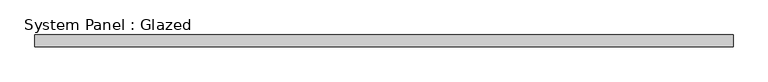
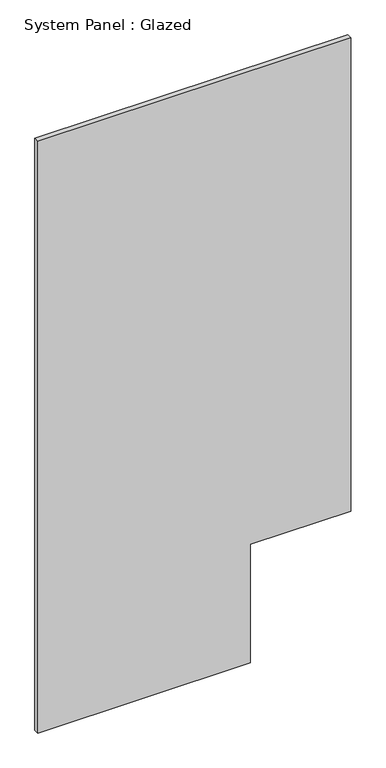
"""IFC4 building model written with IfcOpenShell, lengths in millimetres: plate geometry, System Panel : Glazed."""

from ifc_helpers import new_model, si_unit, frame, origin, place, context, project, spatial, polyline, outline, extrude, source, transform, mapped, element, save


def system_panel_glazed_fbe2ae63(model_context):
    return source(origin(), model_context, "Body", "SweptSolid", [
        extrude(outline(polyline([(0.0, -762.0), (0.0, 272.2441888), (609.6, 272.2441888), (609.6, 762.0), (3048.0, 762.0), (3048.0, -762.0), (0.0, -762.0)])), frame((0.0, -44.45, 0.0), z_axis=(0.0, 1.0, 0.0), x_axis=(0.0, 0.0, 1.0)), (0.0, 0.0, 1.0), 25.4),
    ])


if __name__ == "__main__":
    model = new_model("IFC4")
    model_context = context("Model", 3, world=origin())
    ifc_project = project(units=[si_unit("LENGTHUNIT", "METRE", prefix="MILLI")], contexts=[model_context])
    site = spatial("IfcSite", under=ifc_project)
    building = spatial("IfcBuilding", under=site)
    placement = place(None, origin())
    system_panel_glazed_shape = system_panel_glazed_fbe2ae63(model_context)
    element("IfcPlate", 1, ObjectType="System Panel : Glazed", at=placement, inside=building, context=model_context, shape_type="MappedRepresentation", body=[
        mapped(system_panel_glazed_shape, transform((0.0, 0.0, 0.0), x_axis=(1.0, 0.0, 0.0), y_axis=(0.0, 1.0, 0.0), z_axis=(0.0, 0.0, 1.0))),
    ])
    save(model, "model.ifc")
